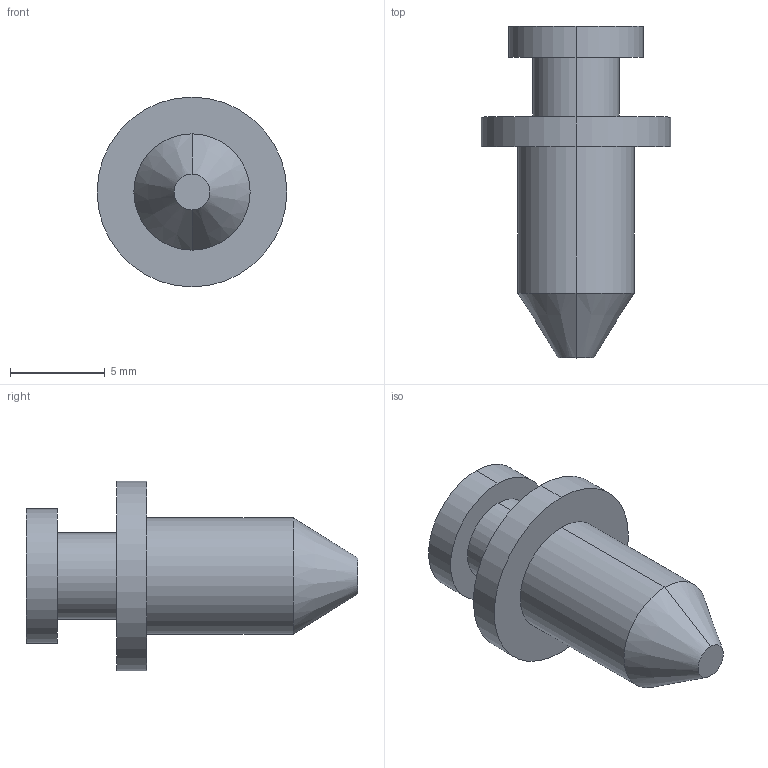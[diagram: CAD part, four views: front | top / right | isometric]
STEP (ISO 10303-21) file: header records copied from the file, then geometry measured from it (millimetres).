
FILE_DESCRIPTION (( 'STEP AP214' ), '1' );
FILE_NAME ('2055_V01_REF_PRT_SH_SCR.STEP', '2026-01-20T14:54:22', ( '' ), ( '' ), 'SwSTEP 2.0', 'SolidWorks 2025', '' );
FILE_SCHEMA (( 'AUTOMOTIVE_DESIGN' ));
Length unit declared in the file: inch
Products named in the file (1): 2055_V01_REF_PRT_SH_SCR
Bounding box: 10.03 x 17.55 x 10.03 mm (x, y, z)
Volume: 518.2 mm3; surface area: 510 mm2
Topology: 1 solids, 1 shells, 15 faces, 28 edges, 18 vertices
Faces by surface type: cylinder 8, plane 5, cone 2
Entity records: 411 total; most frequent: DIRECTION 78, CARTESIAN_POINT 62, ORIENTED_EDGE 56, AXIS2_PLACEMENT_3D 34, EDGE_CURVE 28, CIRCLE 18, EDGE_LOOP 18, VERTEX_POINT 18
